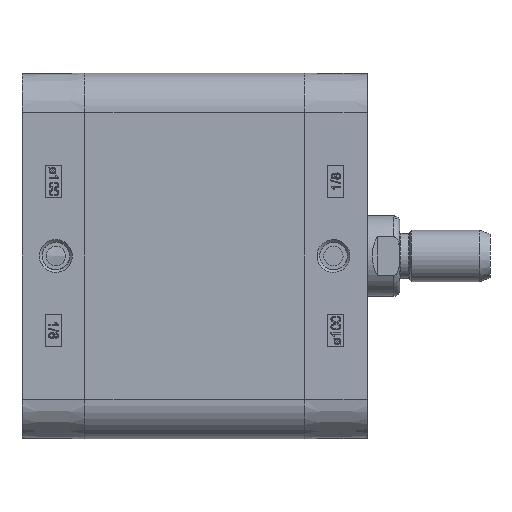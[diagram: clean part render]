
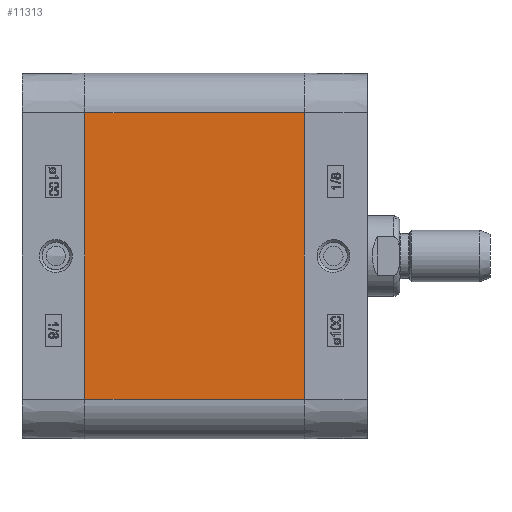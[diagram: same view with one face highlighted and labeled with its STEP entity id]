
A CAD part, left-side view. The second image highlights one B-rep face of the part: STEP entity #11313.
In plain terms, the highlighted planar face has unit normal (-1, 0, 0).
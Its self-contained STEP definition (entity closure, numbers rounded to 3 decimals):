
#5678=CARTESIAN_POINT('',(-56.65,-68.0,44.4));
#5679=VERTEX_POINT('',#5678);
#5686=CARTESIAN_POINT('',(-56.65,-68.0,-44.4));
#5687=VERTEX_POINT('',#5686);
#5688=CARTESIAN_POINT('',(-56.65,-68.0,-44.4));
#5689=DIRECTION('',(0.0,0.0,1.0));
#5690=VECTOR('',#5689,88.8);
#5691=LINE('',#5688,#5690);
#5692=EDGE_CURVE('',#5687,#5679,#5691,.T.);
#11271=CARTESIAN_POINT('',(-56.65,0.0,-44.4));
#11272=VERTEX_POINT('',#11271);
#11273=CARTESIAN_POINT('',(-56.65,0.0,-44.4));
#11274=DIRECTION('',(0.0,-1.0,0.0));
#11275=VECTOR('',#11274,68.0);
#11276=LINE('',#11273,#11275);
#11277=EDGE_CURVE('',#11272,#5687,#11276,.T.);
#11290=CARTESIAN_POINT('',(-56.65,0.0,-44.4));
#11291=DIRECTION('',(-1.0,0.0,0.0));
#11292=DIRECTION('',(0.0,0.0,1.0));
#11293=AXIS2_PLACEMENT_3D('',#11290,#11291,#11292);
#11294=PLANE('',#11293);
#11295=ORIENTED_EDGE('',*,*,#5692,.T.);
#11296=CARTESIAN_POINT('',(-56.65,0.0,44.4));
#11297=VERTEX_POINT('',#11296);
#11298=CARTESIAN_POINT('',(-56.65,0.0,44.4));
#11299=DIRECTION('',(0.0,-1.0,0.0));
#11300=VECTOR('',#11299,68.0);
#11301=LINE('',#11298,#11300);
#11302=EDGE_CURVE('',#11297,#5679,#11301,.T.);
#11303=ORIENTED_EDGE('',*,*,#11302,.F.);
#11304=CARTESIAN_POINT('',(-56.65,0.0,-44.4));
#11305=DIRECTION('',(0.0,0.0,1.0));
#11306=VECTOR('',#11305,88.8);
#11307=LINE('',#11304,#11306);
#11308=EDGE_CURVE('',#11272,#11297,#11307,.T.);
#11309=ORIENTED_EDGE('',*,*,#11308,.F.);
#11310=ORIENTED_EDGE('',*,*,#11277,.T.);
#11311=EDGE_LOOP('',(#11295,#11303,#11309,#11310));
#11312=FACE_OUTER_BOUND('',#11311,.T.);
#11313=ADVANCED_FACE('',(#11312),#11294,.T.);
